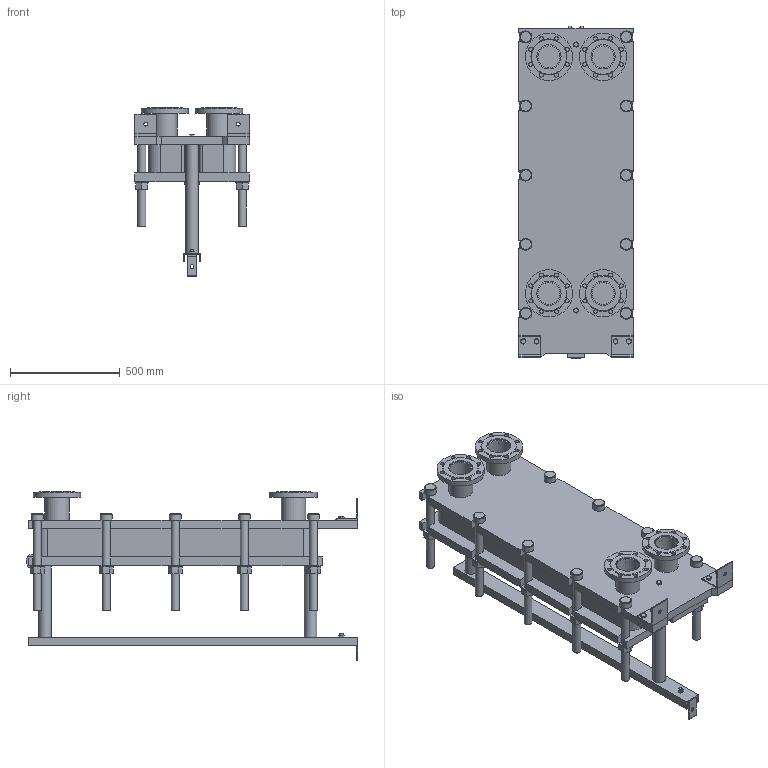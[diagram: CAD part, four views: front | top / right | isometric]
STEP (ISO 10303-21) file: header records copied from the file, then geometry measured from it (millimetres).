
FILE_DESCRIPTION(/* description */ (''),/* implementation_level */ '2;1');
FILE_NAME(/* name */ 'C:\Users\zhuro\Desktop\ENCO\TO\ЭН-04\ЭН-0,5-04-37-1.stp',/* time_stamp */ '2022-06-06T10:47:08+03:00',/* author */ ('zhuro'),/* organization */ (''),/* preprocessor_version */ 'ST-DEVELOPER v18.1',/* originating_system */ 'Autodesk Inventor 2022',/* authorisation */ '');
FILE_SCHEMA (('AUTOMOTIVE_DESIGN { 1 0 10303 214 3 1 1 }'));
Length unit declared in the file: millimetre
Products named in the file (1): ЭН-0,5-04-37-1
Bounding box: 520 x 1510 x 768.5 mm (x, y, z)
Volume: 131608320.5 mm3; surface area: 6969886 mm2
Topology: 45 solids, 45 shells, 668 faces, 1611 edges, 1048 vertices
Faces by surface type: plane 457, cylinder 166, cone 39, torus 6
Full cylindrical faces by diameter (mm): 8 x4, 10 x2, 16 x8, 18 x35, 36 x25, 40 x2, 42 x1, 45 x4, 54 x10, 57 x2, 60 x10, 68 x2, 100 x4, 110 x8, 215 x4
Entity records: 23607 total; most frequent: CARTESIAN_POINT 7348, DIRECTION 3371, ORIENTED_EDGE 3142, EDGE_CURVE 1571, AXIS2_PLACEMENT_3D 1199, VERTEX_POINT 1044, LINE 973, VECTOR 973
